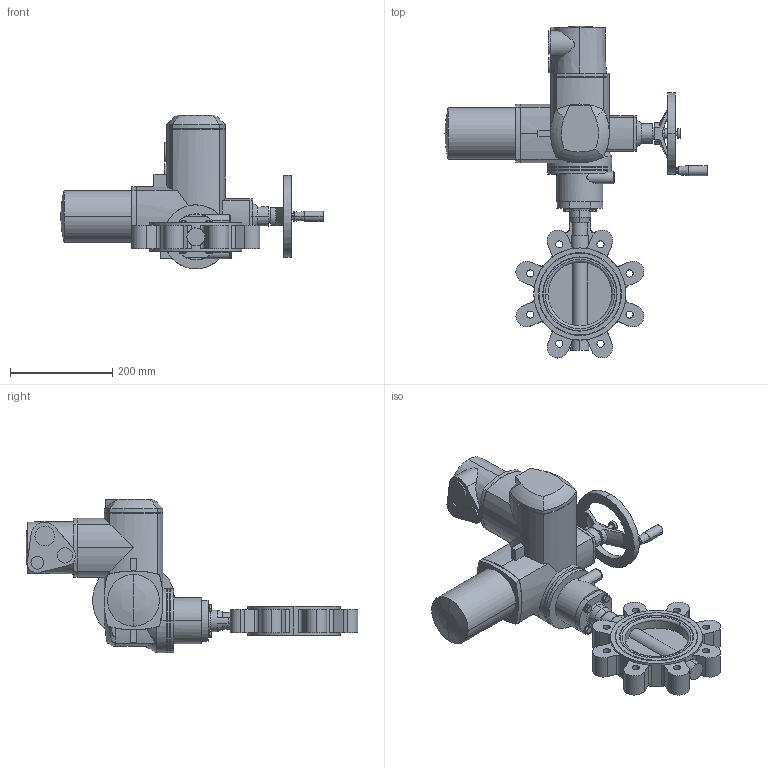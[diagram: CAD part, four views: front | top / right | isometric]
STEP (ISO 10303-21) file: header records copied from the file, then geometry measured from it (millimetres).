
FILE_DESCRIPTION (( 'STEP AP214' ), '1' );
FILE_NAME ('67548.step', '2020-10-23T13:46:37', ( '' ), ( '' ), 'SwSTEP 2.0', 'SolidWorks 2019', '' );
FILE_SCHEMA (( 'AUTOMOTIVE_DESIGN' ));
Length unit declared in the file: millimetre
Products named in the file (7): SQ(R) 05.2_SQ 05.2 Drehstrommotor; U-Scheibe DIN 125 A_M8; 54377_SQ05.2 F05_F07-VK14; Gewindestift mit Kegelkuppe und In-6kt DIN 913 A4_Gewindestift mit In-6kt M5x10; 6kt-Schr DIN 933_M8x25; 67548; TL20-0125_M01
Assembly tree (12 placements, depth 2):
  67548
    TL20-0125_M01
    U-Scheibe DIN 125 A_M8  x4
    6kt-Schr DIN 933_M8x25  x4
    SQ(R) 05.2_SQ 05.2 Drehstrommotor
    54377_SQ05.2 F05_F07-VK14
    Gewindestift mit Kegelkuppe und In-6kt DIN 913 A4_Gewindestift mit In-6kt M5x10
Bounding box: 512.7 x 648.43 x 300.3 mm (x, y, z)
Volume: 9575236.1 mm3; surface area: 577867.6 mm2
Topology: 12 solids, 12 shells, 754 faces, 1898 edges, 1207 vertices
Faces by surface type: plane 369, cylinder 247, cone 117, bspline 11, torus 6, sphere 4
Entity records: 28412 total; most frequent: CARTESIAN_POINT 7952, DIRECTION 3431, ORIENTED_EDGE 3374, EDGE_CURVE 1687, AXIS2_PLACEMENT_3D 1271, VERTEX_POINT 1085, LINE 889, VECTOR 889
